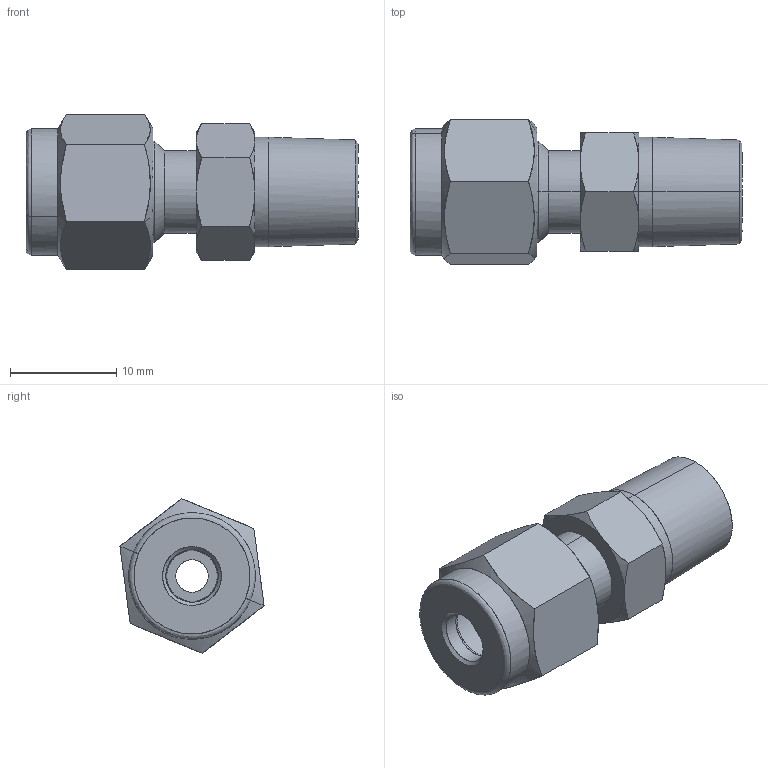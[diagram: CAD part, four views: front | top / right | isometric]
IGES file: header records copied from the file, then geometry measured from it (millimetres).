
Start section: Comment
Global section: file name: SMC3-2N.igs; native system:  By UGS Corp.; preprocessor: XPlus GENERIC/IGES 3.0; author: Author; organization: Title; date: 20100113.153340; units: millimetre
Bounding box: 31.2 x 13.55 x 14.54 mm (x, y, z)
Surface area: 2212.6 mm2 (no closed solid volume)
Topology: 0 solids, 0 shells, 80 faces, 336 edges, 336 vertices
Faces by surface type: bspline 80
